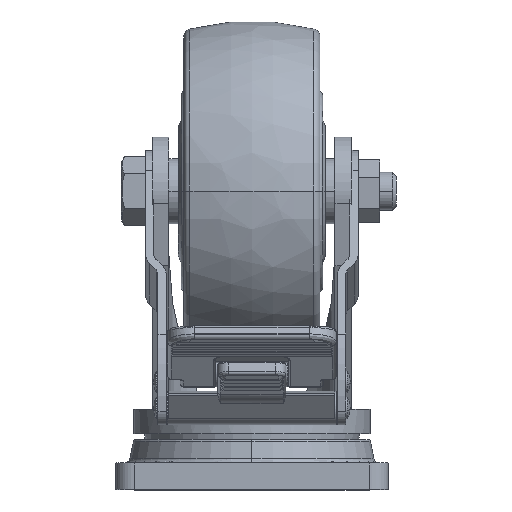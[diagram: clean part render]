
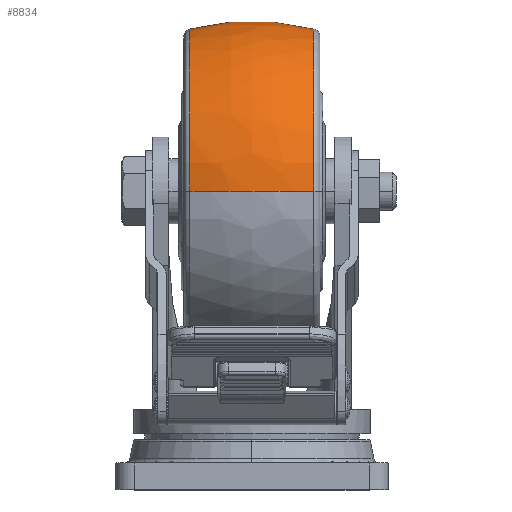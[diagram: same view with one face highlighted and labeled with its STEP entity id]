
A CAD part, top view. The second image highlights one B-rep face of the part: STEP entity #8834.
In plain terms, the highlighted free-form (B-spline) face has degree [3, 3] with [7, 4] control points.
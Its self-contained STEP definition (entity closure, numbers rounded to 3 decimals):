
#5776=CARTESIAN_POINT('',(-27.499,0.,
0.));
#5777=DIRECTION('',(0.,1.,0.));
#5778=DIRECTION('',(1.,0.,0.));
#5779=AXIS2_PLACEMENT_3D('',#5776,#5777,#5778);
#5791=CARTESIAN_POINT('',(-27.499,0.,
0.));
#5792=DIRECTION('',(0.,1.,0.));
#5793=DIRECTION('',(0.967,0.,0.253));
#5794=AXIS2_PLACEMENT_3D('',#5791,#5792,#5793);
#5796=CARTESIAN_POINT('',(0.,0.,22.759));
#5797=DIRECTION('',(0.,0.,1.));
#5798=DIRECTION('',(1.,0.,0.));
#5799=AXIS2_PLACEMENT_3D('',#5796,#5797,#5798);
#5801=CARTESIAN_POINT('',(27.499,0.,
0.));
#5802=DIRECTION('',(0.,-1.,0.));
#5803=DIRECTION('',(-0.967,0.,0.253));
#5804=AXIS2_PLACEMENT_3D('',#5801,#5802,#5803);
#5806=CARTESIAN_POINT('',(27.499,0.,
0.));
#5807=DIRECTION('',(0.,-1.,0.));
#5808=DIRECTION('',(-1.,0.,0.));
#5809=AXIS2_PLACEMENT_3D('',#5806,#5807,#5808);
#5811=CARTESIAN_POINT('',(0.,0.,-22.759));
#5812=DIRECTION('',(0.,0.,-1.));
#5813=DIRECTION('',(-1.,0.,0.));
#5814=AXIS2_PLACEMENT_3D('',#5811,#5812,#5813);
#7419=CARTESIAN_POINT('',(-59.576,0.,22.759));
#7420=VERTEX_POINT('',#7419);
#7421=CARTESIAN_POINT('',(59.576,0.001,22.759));
#7422=VERTEX_POINT('',#7421);
#7423=CARTESIAN_POINT('',(62.501,-0.001,
0.));
#7424=CARTESIAN_POINT('',(59.576,-0.001,
-22.759));
#7425=VERTEX_POINT('',#7423);
#7426=VERTEX_POINT('',#7424);
#7427=CARTESIAN_POINT('',(-59.576,-0.001,
-22.759));
#7428=VERTEX_POINT('',#7427);
#7429=CARTESIAN_POINT('',(-62.501,0.001,
0.));
#7430=VERTEX_POINT('',#7429);
#8796=CARTESIAN_POINT('',(-59.222,-3.725,
23.648));
#8797=CARTESIAN_POINT('',(-63.455,-3.992,
8.072));
#8798=CARTESIAN_POINT('',(-63.455,-3.992,
-8.072));
#8799=CARTESIAN_POINT('',(-59.222,-3.725,
-23.648));
#8800=CARTESIAN_POINT('',(-61.514,32.719,23.648));
#8801=CARTESIAN_POINT('',(-65.912,35.058,8.072));
#8802=CARTESIAN_POINT('',(-65.912,35.058,
-8.072));
#8803=CARTESIAN_POINT('',(-61.514,32.719,
-23.648));
#8804=CARTESIAN_POINT('',(-36.517,59.339,23.648));
#8805=CARTESIAN_POINT('',(-39.127,63.581,8.072));
#8806=CARTESIAN_POINT('',(-39.127,63.581,
-8.072));
#8807=CARTESIAN_POINT('',(-36.517,59.339,
-23.648));
#8808=CARTESIAN_POINT('',(0.,59.339,
23.648));
#8809=CARTESIAN_POINT('',(0.,63.581,
8.072));
#8810=CARTESIAN_POINT('',(0.,63.581,
-8.072));
#8811=CARTESIAN_POINT('',(0.,59.339,
-23.648));
#8812=CARTESIAN_POINT('',(36.517,59.339,23.648));
#8813=CARTESIAN_POINT('',(39.127,63.581,8.072));
#8814=CARTESIAN_POINT('',(39.127,63.581,-8.072));
#8815=CARTESIAN_POINT('',(36.517,59.339,-23.648));
#8816=CARTESIAN_POINT('',(61.514,32.719,23.648));
#8817=CARTESIAN_POINT('',(65.912,35.058,8.072));
#8818=CARTESIAN_POINT('',(65.912,35.058,-8.072));
#8819=CARTESIAN_POINT('',(61.514,32.719,-23.648));
#8820=CARTESIAN_POINT('',(59.222,-3.725,23.648));
#8821=CARTESIAN_POINT('',(63.455,-3.992,8.072));
#8822=CARTESIAN_POINT('',(63.455,-3.992,
-8.072));
#8823=CARTESIAN_POINT('',(59.222,-3.725,
-23.648));
#8824=(BOUNDED_SURFACE()B_SPLINE_SURFACE(3,3,((#8796,#8797,#8798,#8799),(#8800,
#8801,#8802,#8803),(#8804,#8805,#8806,#8807),(#8808,#8809,#8810,#8811),(#8812,
#8813,#8814,#8815),(#8816,#8817,#8818,#8819),(#8820,#8821,#8822,#8823)),
.UNSPECIFIED.,.F.,.F.,.F.)B_SPLINE_SURFACE_WITH_KNOTS((4,3,4),(4,4),(0.,1.,
2.),(0.,1.),.UNSPECIFIED.)GEOMETRIC_REPRESENTATION_ITEM()RATIONAL_B_SPLINE_SURFACE(((1.208,1.18,1.18,1.208),(
0.954,0.932,0.932,0.954),(
0.954,0.932,0.932,0.954),(
1.208,1.18,1.18,1.208),(
0.954,0.932,0.932,0.954),(
0.954,0.932,0.932,0.954),(
1.208,1.18,1.18,1.208)))REPRESENTATION_ITEM('')SURFACE());
#8825=ORIENTED_EDGE('',*,*,#8733,.T.);
#8826=ORIENTED_EDGE('',*,*,#8788,.T.);
#8827=ORIENTED_EDGE('',*,*,#8786,.T.);
#8829=ORIENTED_EDGE('',*,*,#8828,.T.);
#8830=ORIENTED_EDGE('',*,*,#8782,.F.);
#8831=ORIENTED_EDGE('',*,*,#8791,.F.);
#8832=EDGE_LOOP('',(#8825,#8826,#8827,#8829,#8830,#8831));
#8833=FACE_OUTER_BOUND('',#8832,.F.);
#5780=CIRCLE('',#5779,90.);
#5795=CIRCLE('',#5794,90.);
#5800=CIRCLE('',#5799,59.576);
#5805=CIRCLE('',#5804,90.);
#5810=CIRCLE('',#5809,90.);
#5815=CIRCLE('',#5814,59.576);
#8733=EDGE_CURVE('',#7422,#7420,#5800,.T.);
#8782=EDGE_CURVE('',#7425,#7426,#5780,.T.);
#8786=EDGE_CURVE('',#7430,#7428,#5810,.T.);
#8788=EDGE_CURVE('',#7420,#7430,#5805,.T.);
#8791=EDGE_CURVE('',#7422,#7425,#5795,.T.);
#8828=EDGE_CURVE('',#7428,#7426,#5815,.T.);
#8834=ADVANCED_FACE('',(#8833),#8824,.T.);
